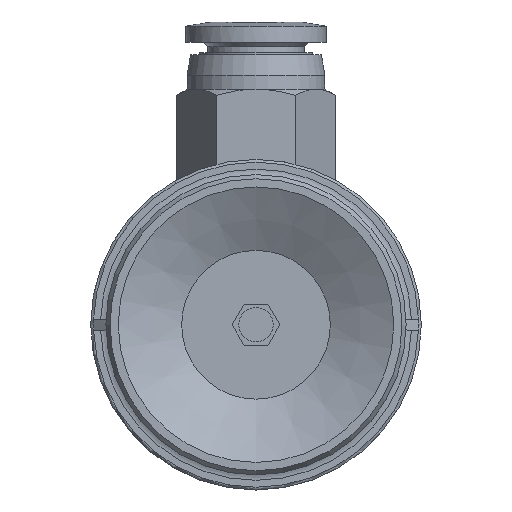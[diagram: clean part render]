
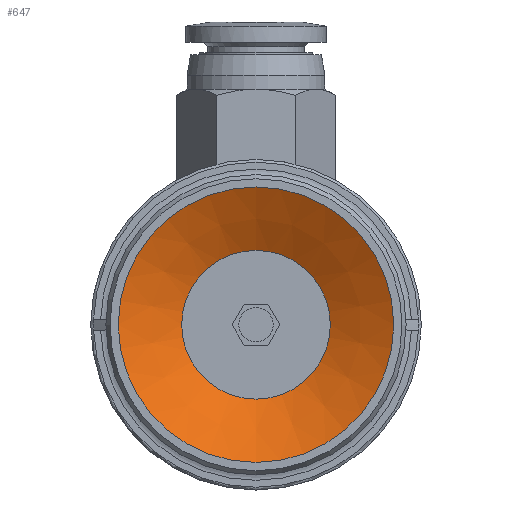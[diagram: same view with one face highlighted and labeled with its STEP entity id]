
A CAD part, front view. The second image highlights one B-rep face of the part: STEP entity #647.
In plain terms, the highlighted conical face has half-angle 61.631 degrees and reference radius 5.4 mm.
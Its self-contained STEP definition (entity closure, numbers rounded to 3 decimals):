
#647=ADVANCED_FACE('',(#1024,#1025),#1026,.F.);
#1024=FACE_BOUND('',#1489,.T.);
#1025=FACE_OUTER_BOUND('',#1490,.T.);
#1026=CONICAL_SURFACE('',#1491,5.4,1.076);
#1489=EDGE_LOOP('',(#2782));
#1490=EDGE_LOOP('',(#2783));
#1491=AXIS2_PLACEMENT_3D('',#2784,#2785,#2786);
#2782=ORIENTED_EDGE('',*,*,#3392,.F.);
#2783=ORIENTED_EDGE('',*,*,#3414,.T.);
#2784=CARTESIAN_POINT('',(0.0,2.484,0.0));
#2785=DIRECTION('',(-0.0,-1.0,0.));
#2786=DIRECTION('',(0.0,0.,-1.0));
#3392=EDGE_CURVE('',#3931,#3931,#3932,.T.);
#3414=EDGE_CURVE('',#3965,#3965,#3966,.T.);
#3931=VERTEX_POINT('',#5021);
#3932=CIRCLE('',#5022,5.4);
#3965=VERTEX_POINT('',#5067);
#3966=CIRCLE('',#5068,10.0);
#5021=CARTESIAN_POINT('',(0.0,2.484,-5.4));
#5022=AXIS2_PLACEMENT_3D('',#5917,#5918,#5919);
#5067=CARTESIAN_POINT('',(0.0,0.,-10.0));
#5068=AXIS2_PLACEMENT_3D('',#5959,#5960,#5961);
#5917=CARTESIAN_POINT('',(0.0,2.484,0.0));
#5918=DIRECTION('',(0.0,-1.0,0.));
#5919=DIRECTION('',(0.0,0.,-1.0));
#5959=CARTESIAN_POINT('',(0.0,0.0,0.0));
#5960=DIRECTION('',(0.0,-1.0,0.));
#5961=DIRECTION('',(0.0,0.,-1.0));
